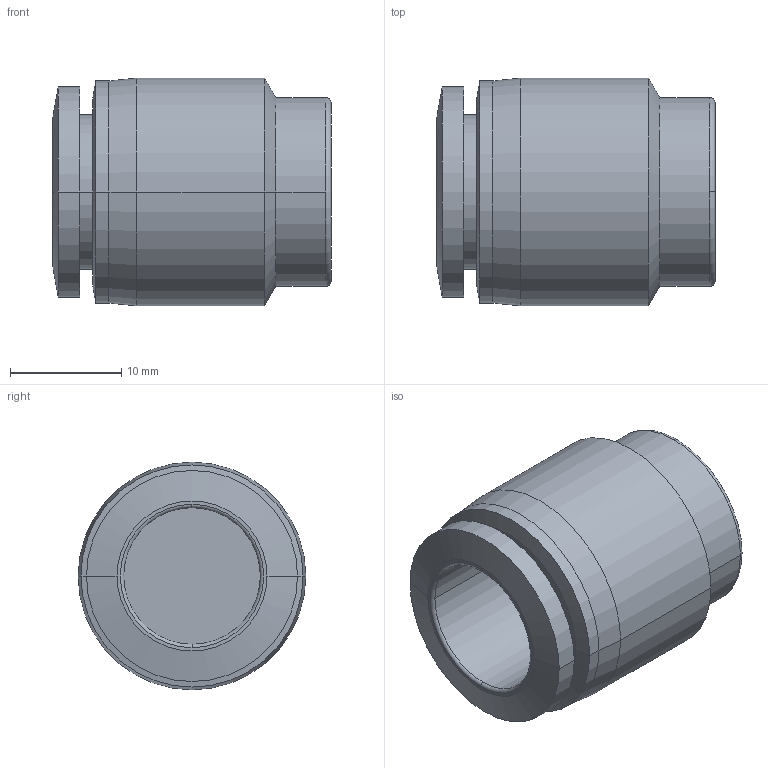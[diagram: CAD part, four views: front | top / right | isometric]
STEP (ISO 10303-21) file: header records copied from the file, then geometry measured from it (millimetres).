
FILE_DESCRIPTION (( 'STEP AP203' ), '1' );
FILE_NAME ('FC12-00.STEP', '2020-05-13T10:10:24', ( '' ), ( '' ), 'SwSTEP 2.0', 'SolidWorks 2019', '' );
FILE_SCHEMA (( 'CONFIG_CONTROL_DESIGN' ));
Length unit declared in the file: millimetre
Products named in the file (1): FC12-00
Bounding box: 25.05 x 20.5 x 20.5 mm (x, y, z)
Volume: 4558.9 mm3; surface area: 3203.8 mm2
Topology: 1 solids, 1 shells, 29 faces, 60 edges, 36 vertices
Faces by surface type: cylinder 12, cone 8, plane 5, torus 4
Entity records: 855 total; most frequent: DIRECTION 160, CARTESIAN_POINT 126, ORIENTED_EDGE 120, AXIS2_PLACEMENT_3D 70, EDGE_CURVE 60, CIRCLE 40, VERTEX_POINT 36, EDGE_LOOP 32
